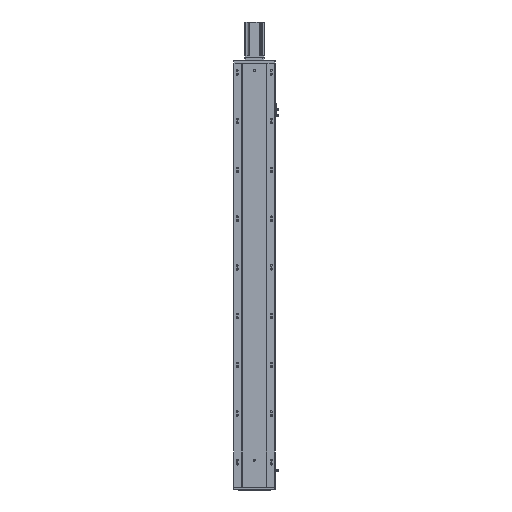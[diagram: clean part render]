
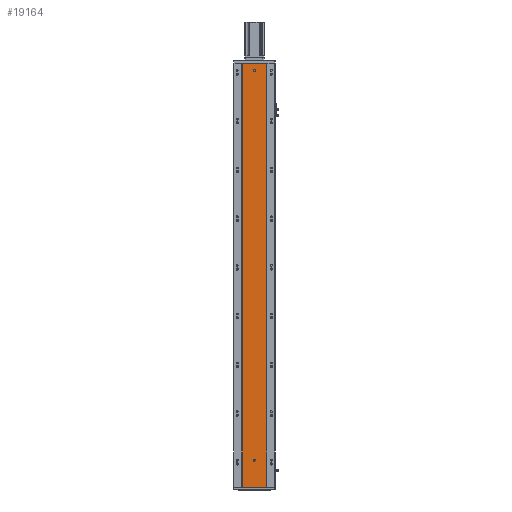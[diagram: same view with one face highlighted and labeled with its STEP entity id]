
A CAD part, front view. The second image highlights one B-rep face of the part: STEP entity #19164.
In plain terms, the highlighted planar face has unit normal (0, -1, 0).
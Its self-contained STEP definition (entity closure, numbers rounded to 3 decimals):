
#778 = VERTEX_POINT ( 'NONE', #11504 ) ;
#801 = VERTEX_POINT ( 'NONE', #11449 ) ;
#802 = VERTEX_POINT ( 'NONE', #11466 ) ;
#839 = VERTEX_POINT ( 'NONE', #11535 ) ;
#1744 = VERTEX_POINT ( 'NONE', #14839 ) ;
#1746 = VERTEX_POINT ( 'NONE', #14827 ) ;
#1793 = VERTEX_POINT ( 'NONE', #13708 ) ;
#1843 = VERTEX_POINT ( 'NONE', #13744 ) ;
#5453 = EDGE_LOOP ( 'NONE', ( #8489, #8420 ) ) ;
#5510 = EDGE_LOOP ( 'NONE', ( #8398, #8418, #8419, #8415 ) ) ;
#5522 = EDGE_LOOP ( 'NONE', ( #8427, #8383 ) ) ;
#8383 = ORIENTED_EDGE ( 'NONE', *, *, #43595, .F. ) ;
#8398 = ORIENTED_EDGE ( 'NONE', *, *, #21059, .T. ) ;
#8415 = ORIENTED_EDGE ( 'NONE', *, *, #20993, .T. ) ;
#8418 = ORIENTED_EDGE ( 'NONE', *, *, #20964, .F. ) ;
#8419 = ORIENTED_EDGE ( 'NONE', *, *, #21025, .F. ) ;
#8420 = ORIENTED_EDGE ( 'NONE', *, *, #43616, .F. ) ;
#8427 = ORIENTED_EDGE ( 'NONE', *, *, #20968, .F. ) ;
#8489 = ORIENTED_EDGE ( 'NONE', *, *, #21036, .F. ) ;
#11449 = CARTESIAN_POINT ( 'NONE',  ( 185.97, 79.476, 1740. ) ) ;
#11466 = CARTESIAN_POINT ( 'NONE',  ( 185.97, 79.476, 0. ) ) ;
#11504 = CARTESIAN_POINT ( 'NONE',  ( 86.97, 79.476, 1740. ) ) ;
#11535 = CARTESIAN_POINT ( 'NONE',  ( 86.97, 79.476, 0. ) ) ;
#13708 = CARTESIAN_POINT ( 'NONE',  ( 136.47, 79.476, 1714. ) ) ;
#13744 = CARTESIAN_POINT ( 'NONE',  ( 136.47, 79.476, 1706. ) ) ;
#14827 = CARTESIAN_POINT ( 'NONE',  ( 136.47, 79.476, 114. ) ) ;
#14839 = CARTESIAN_POINT ( 'NONE',  ( 136.47, 79.476, 106. ) ) ;
#19164 = ADVANCED_FACE ( 'NONE', ( #35320, #35330, #35346 ), #34906, .F. ) ;
#20964 = EDGE_CURVE ( 'NONE', #801, #802, #44143, .T. ) ;
#20968 = EDGE_CURVE ( 'NONE', #1843, #1793, #36013, .T. ) ;
#20993 = EDGE_CURVE ( 'NONE', #778, #839, #44186, .T. ) ;
#21025 = EDGE_CURVE ( 'NONE', #778, #801, #36153, .T. ) ;
#21036 = EDGE_CURVE ( 'NONE', #1744, #1746, #36143, .T. ) ;
#21059 = EDGE_CURVE ( 'NONE', #839, #802, #36173, .T. ) ;
#23182 = AXIS2_PLACEMENT_3D ( 'NONE', #34935, #34954, #34907 ) ;
#23399 = AXIS2_PLACEMENT_3D ( 'NONE', #27693, #27707, #27716 ) ;
#23406 = AXIS2_PLACEMENT_3D ( 'NONE', #27595, #27579, #27599 ) ;
#24235 = AXIS2_PLACEMENT_3D ( 'NONE', #40019, #40042, #40047 ) ;
#24244 = AXIS2_PLACEMENT_3D ( 'NONE', #40093, #40096, #40094 ) ;
#27528 = CARTESIAN_POINT ( 'NONE',  ( 185.97, 79.476, 1740. ) ) ;
#27530 = CARTESIAN_POINT ( 'NONE',  ( 185.97, 79.476, 1160. ) ) ;
#27579 = DIRECTION ( 'NONE',  ( 0., -1., 0. ) ) ;
#27592 = CARTESIAN_POINT ( 'NONE',  ( 185.97, 79.476, 580. ) ) ;
#27595 = CARTESIAN_POINT ( 'NONE',  ( 136.47, 79.476, 1710. ) ) ;
#27599 = DIRECTION ( 'NONE',  ( 0., 0., -1. ) ) ;
#27603 = CARTESIAN_POINT ( 'NONE',  ( 185.97, 79.476, 0. ) ) ;
#27621 = CARTESIAN_POINT ( 'NONE',  ( 86.97, 79.476, 1740. ) ) ;
#27642 = CARTESIAN_POINT ( 'NONE',  ( 86.97, 79.476, 0. ) ) ;
#27644 = CARTESIAN_POINT ( 'NONE',  ( 86.97, 79.476, 580. ) ) ;
#27645 = CARTESIAN_POINT ( 'NONE',  ( 86.97, 79.476, 1160. ) ) ;
#27693 = CARTESIAN_POINT ( 'NONE',  ( 136.47, 79.476, 110. ) ) ;
#27705 = DIRECTION ( 'NONE',  ( 1., 0., 0. ) ) ;
#27707 = DIRECTION ( 'NONE',  ( 0., -1., 0. ) ) ;
#27716 = DIRECTION ( 'NONE',  ( 0., 0., -1. ) ) ;
#27724 = CARTESIAN_POINT ( 'NONE',  ( 0., 79.476, 1740. ) ) ;
#27791 = DIRECTION ( 'NONE',  ( 1., 0., 0. ) ) ;
#27801 = CARTESIAN_POINT ( 'NONE',  ( 0., 79.476, 0. ) ) ;
#34906 = PLANE ( 'NONE',  #23182 ) ;
#34907 = DIRECTION ( 'NONE',  ( 0., 0., 1. ) ) ;
#34935 = CARTESIAN_POINT ( 'NONE',  ( 0., 79.476, 1740. ) ) ;
#34954 = DIRECTION ( 'NONE',  ( 0., 1., 0. ) ) ;
#35320 = FACE_BOUND ( 'NONE', #5522, .T. ) ;
#35330 = FACE_BOUND ( 'NONE', #5453, .T. ) ;
#35346 = FACE_OUTER_BOUND ( 'NONE', #5510, .T. ) ;
#36013 = CIRCLE ( 'NONE', #23406, 4. ) ;
#36140 = VECTOR ( 'NONE', #27705, 1000. ) ;
#36143 = CIRCLE ( 'NONE', #23399, 4. ) ;
#36153 = LINE ( 'NONE', #27724, #36140 ) ;
#36173 = LINE ( 'NONE', #27801, #36186 ) ;
#36186 = VECTOR ( 'NONE', #27791, 1000. ) ;
#40019 = CARTESIAN_POINT ( 'NONE',  ( 136.47, 79.476, 1710. ) ) ;
#40042 = DIRECTION ( 'NONE',  ( 0., -1., 0. ) ) ;
#40047 = DIRECTION ( 'NONE',  ( 0., 0., -1. ) ) ;
#40093 = CARTESIAN_POINT ( 'NONE',  ( 136.47, 79.476, 110. ) ) ;
#40094 = DIRECTION ( 'NONE',  ( 0., 0., -1. ) ) ;
#40096 = DIRECTION ( 'NONE',  ( 0., -1., 0. ) ) ;
#40407 = CIRCLE ( 'NONE', #24235, 4. ) ;
#40457 = CIRCLE ( 'NONE', #24244, 4. ) ;
#43595 = EDGE_CURVE ( 'NONE', #1793, #1843, #40407, .T. ) ;
#43616 = EDGE_CURVE ( 'NONE', #1746, #1744, #40457, .T. ) ;
#44143 = B_SPLINE_CURVE_WITH_KNOTS ( 'NONE', 3,
 ( #27528, #27530, #27592, #27603 ),
 .UNSPECIFIED., .F., .F.,
 ( 4, 4 ),
 ( 0., 1. ),
 .UNSPECIFIED. ) ;
#44186 = B_SPLINE_CURVE_WITH_KNOTS ( 'NONE', 3,
 ( #27621, #27645, #27644, #27642 ),
 .UNSPECIFIED., .F., .F.,
 ( 4, 4 ),
 ( 0., 1. ),
 .UNSPECIFIED. ) ;
